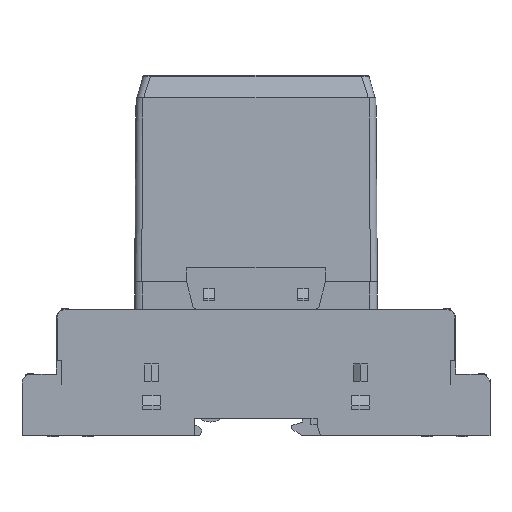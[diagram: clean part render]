
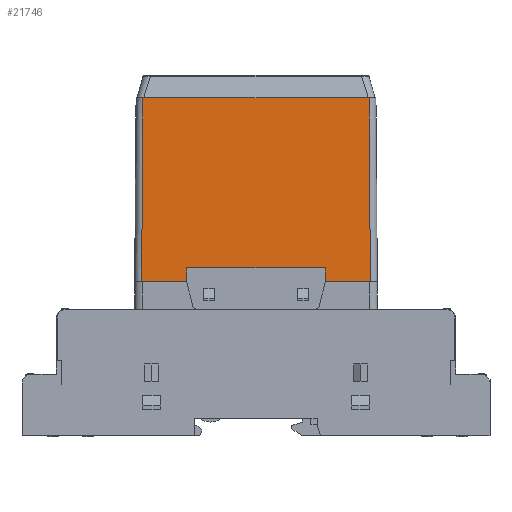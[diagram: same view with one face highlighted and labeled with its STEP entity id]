
A CAD part, front view. The second image highlights one B-rep face of the part: STEP entity #21746.
In plain terms, the highlighted planar face has unit normal (0, -1, 0.007).
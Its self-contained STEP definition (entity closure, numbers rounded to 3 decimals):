
#21746=ADVANCED_FACE('',(#85698),#85700,.T.);
#85698=FACE_BOUND('',#85699,.T.);
#85699=EDGE_LOOP('',(#542757,#542758,#542759,#542760,#542761,#542762,#542763,#542764));
#85700=PLANE('',#85701);
#85701=AXIS2_PLACEMENT_3D('',#85702,#85703,#85704);
#85702=CARTESIAN_POINT('',(34.4,6.369,90.5));
#85703=DIRECTION('',(0.,-1.,0.008));
#85704=DIRECTION('',(-1.,0.,0.));
#542757=ORIENTED_EDGE('',*,*,#576254,.F.);
#542758=ORIENTED_EDGE('',*,*,#576226,.F.);
#542759=ORIENTED_EDGE('',*,*,#580182,.F.);
#542760=ORIENTED_EDGE('',*,*,#580172,.T.);
#542761=ORIENTED_EDGE('',*,*,#580183,.T.);
#542762=ORIENTED_EDGE('',*,*,#576227,.F.);
#542763=ORIENTED_EDGE('',*,*,#576258,.F.);
#542764=ORIENTED_EDGE('',*,*,#576256,.F.);
#576226=EDGE_CURVE('',#602889,#598448,#602891,.T.);
#576227=EDGE_CURVE('',#598446,#602892,#602893,.T.);
#576254=EDGE_CURVE('',#598448,#602925,#602926,.T.);
#576256=EDGE_CURVE('',#602925,#602928,#602929,.T.);
#576258=EDGE_CURVE('',#602928,#598446,#602931,.T.);
#580172=EDGE_CURVE('',#609636,#609634,#609637,.T.);
#580182=EDGE_CURVE('',#609636,#602889,#609655,.T.);
#580183=EDGE_CURVE('',#609634,#602892,#609656,.T.);
#598446=VERTEX_POINT('',#644692);
#598448=VERTEX_POINT('',#644696);
#602889=VERTEX_POINT('',#658159);
#602891=LINE('',#658164,#658165);
#602892=VERTEX_POINT('',#658167);
#602893=LINE('',#658168,#658169);
#602925=VERTEX_POINT('',#658255);
#602926=LINE('',#658256,#658257);
#602928=VERTEX_POINT('',#658262);
#602929=LINE('',#658263,#658264);
#602931=LINE('',#658269,#658270);
#609634=VERTEX_POINT('',#676821);
#609636=VERTEX_POINT('',#676826);
#609637=LINE('',#676827,#676828);
#609655=LINE('',#676870,#676871);
#609656=LINE('',#676873,#676874);
#644692=CARTESIAN_POINT('',(-18.2,5.969,37.5));
#644696=CARTESIAN_POINT('',(21.8,5.969,37.5));
#658159=CARTESIAN_POINT('',(34.8,5.969,37.5));
#658164=CARTESIAN_POINT('',(34.8,5.969,37.5));
#658165=VECTOR('',#658166,1.);
#658166=DIRECTION('',(-1.,0.,0.));
#658167=CARTESIAN_POINT('',(-31.2,5.969,37.5));
#658168=CARTESIAN_POINT('',(-18.2,5.969,37.5));
#658169=VECTOR('',#658170,1.);
#658170=DIRECTION('',(-1.,0.,0.));
#658255=CARTESIAN_POINT('',(21.8,5.999,41.5));
#658256=CARTESIAN_POINT('',(21.8,5.969,37.5));
#658257=VECTOR('',#658258,1.);
#658258=DIRECTION('',(0.,0.008,1.));
#658262=CARTESIAN_POINT('',(-18.2,5.999,41.5));
#658263=CARTESIAN_POINT('',(21.8,5.999,41.5));
#658264=VECTOR('',#658265,1.);
#658265=DIRECTION('',(-1.,0.,0.));
#658269=CARTESIAN_POINT('',(-18.2,5.999,41.5));
#658270=VECTOR('',#658271,1.);
#658271=DIRECTION('',(0.,-0.008,-1.));
#676821=CARTESIAN_POINT('',(-30.8,6.369,90.5));
#676826=CARTESIAN_POINT('',(34.4,6.369,90.5));
#676827=CARTESIAN_POINT('',(34.4,6.369,90.5));
#676828=VECTOR('',#676829,1.);
#676829=DIRECTION('',(-1.,0.,0.));
#676870=CARTESIAN_POINT('',(34.4,6.369,90.5));
#676871=VECTOR('',#676872,1.);
#676872=DIRECTION('',(0.008,-0.008,-1.));
#676873=CARTESIAN_POINT('',(-30.8,6.369,90.5));
#676874=VECTOR('',#676875,1.);
#676875=DIRECTION('',(-0.008,-0.008,-1.));
